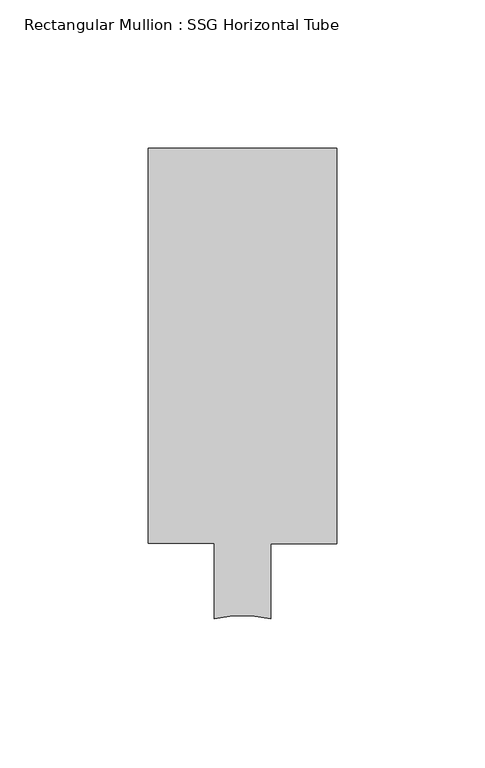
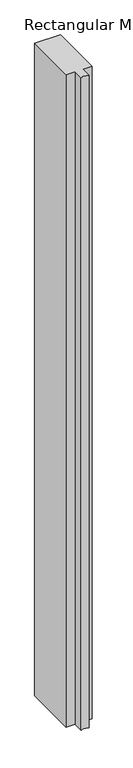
"""IFC4 building model written with IfcOpenShell, lengths in millimetres: member geometry, Rectangular Mullion : SSG Horizontal Tube."""

import ifcopenshell
import ifcopenshell.guid

model = None  # the IFC model being written
_history = None  # IfcOwnerHistory: only IFC2X3 demands one
_inside = {}  # id of a spatial element -> (the spatial element, [elements in it])
_under = {}  # id of a project, library or spatial element -> (it, [spatial elements below it])
_declared = {}  # id of a project -> (the project, [libraries it declares])
_typed = {}  # id of a type object -> (the type object, [elements of that type])
_made_of = {}  # id of a material, layer set ... -> (it, [elements and type objects made of it])


def new_model(schema):
    """Start an empty IFC model of exactly this schema.

    Asked for "IFC4X3", IfcOpenShell would pick the latest addendum, in which some entities
    have other attributes; the version numbers below select the first issue.
    IFC2X3 requires an IfcOwnerHistory on every rooted entity: one is made here for all.
    """
    global model, _history
    if schema == "IFC4X3":
        model = ifcopenshell.file(schema_version=(4, 3, 0, 0))
    else:
        model = ifcopenshell.file(schema=schema)
    _inside.clear()
    _under.clear()
    _declared.clear()
    _typed.clear()
    _made_of.clear()
    _history = None
    if model.schema == "IFC2X3":
        org = make("IfcOrganization", Name="unknown")
        user = make(
            "IfcPersonAndOrganization",
            ThePerson=make("IfcPerson", FamilyName="unknown"),
            TheOrganization=org,
        )
        app = make(
            "IfcApplication",
            ApplicationDeveloper=org,
            Version="unknown",
            ApplicationFullName="unknown",
            ApplicationIdentifier="unknown",
        )
        _history = make(
            "IfcOwnerHistory",
            OwningUser=user,
            OwningApplication=app,
            ChangeAction="ADDED",
            CreationDate=0,
        )
    return model


def make(cls, **values):
    """One entity of the class cls with the attributes given. An attribute that is None is left unset."""
    return model.create_entity(
        cls, **{name: value for name, value in values.items() if value is not None}
    )


def rooted(cls, **values):
    """An entity with a GlobalId (a new one), such as an element, a storey or a relation."""
    return make(cls, GlobalId=ifcopenshell.guid.new(), OwnerHistory=_history, **values)


def si_unit(unit_type, name, prefix=None):
    """IfcSIUnit, for example si_unit("LENGTHUNIT", "METRE", prefix="MILLI")."""
    return make("IfcSIUnit", UnitType=unit_type, Prefix=prefix, Name=name)


def assignment(units):
    """IfcUnitAssignment: the units of a project."""
    return None if units is None else make("IfcUnitAssignment", Units=units)


def point(xyz):
    """IfcCartesianPoint."""
    return None if xyz is None else make("IfcCartesianPoint", Coordinates=xyz)


def direction(xyz):
    """IfcDirection."""
    return None if xyz is None else make("IfcDirection", DirectionRatios=xyz)


def frame(location, z_axis=None, x_axis=None):
    """IfcAxis2Placement3D, a coordinate frame: its origin and axes. An axis left out is left unset."""
    return make(
        "IfcAxis2Placement3D",
        Location=point(location),
        Axis=direction(z_axis),
        RefDirection=direction(x_axis),
    )


def frame_2d(location, x_axis=None):
    """IfcAxis2Placement2D, a coordinate frame in the plane: its origin and x axis."""
    return make(
        "IfcAxis2Placement2D", Location=point(location), RefDirection=direction(x_axis)
    )


def origin():
    """The frame at (0, 0, 0) with its axes left unset."""
    return frame((0.0, 0.0, 0.0))


def place(relative_to, where):
    """IfcLocalPlacement: puts the frame where relative to a parent placement (None: the world)."""
    return make(
        "IfcLocalPlacement", PlacementRelTo=relative_to, RelativePlacement=where
    )


def context(
    kind, dimensions, precision=None, world=None, true_north=None, identifier=None
):
    """IfcGeometricRepresentationContext, for example the 3D "Model" context."""
    return make(
        "IfcGeometricRepresentationContext",
        ContextIdentifier=identifier,
        ContextType=kind,
        CoordinateSpaceDimension=dimensions,
        Precision=precision,
        WorldCoordinateSystem=world,
        TrueNorth=true_north,
    )


def project(units=None, contexts=None):
    """IfcProject with its units and contexts."""
    return rooted(
        "IfcProject",
        Name="project",
        RepresentationContexts=contexts,
        UnitsInContext=assignment(units),
    )


def spatial(cls, under=None, at=None, **own):
    """A site, building, storey or space (cls), placed at a placement, below another one or the project."""
    s = rooted(cls, ObjectPlacement=at, **own)
    if under is not None:
        _under.setdefault(under.id(), (under, []))[1].append(s)
    return s


def polyline(points):
    """IfcPolyline through the points."""
    return make("IfcPolyline", Points=[point(p) for p in points])


def circle_curve(where, radius):
    """IfcCircle in the frame where."""
    return make("IfcCircle", Position=where, Radius=radius)


def trimmed(basis, trim1, trim2, sense, master):
    """IfcTrimmedCurve: the piece of a basis curve between two trims."""
    return make(
        "IfcTrimmedCurve",
        BasisCurve=basis,
        Trim1=trim1,
        Trim2=trim2,
        SenseAgreement=sense,
        MasterRepresentation=master,
    )


def segment(curve, same_sense, transition):
    """IfcCompositeCurveSegment."""
    return make(
        "IfcCompositeCurveSegment",
        Transition=transition,
        SameSense=same_sense,
        ParentCurve=curve,
    )


def composite_curve(segments, self_intersect=None):
    """IfcCompositeCurve: segments joined end to end."""
    return make("IfcCompositeCurve", Segments=segments, SelfIntersect=self_intersect)


def outline(outer, holes=None, kind="AREA"):
    """IfcArbitraryClosedProfileDef: a profile drawn as a closed curve; with holes, ...WithVoids."""
    if holes is None:
        return make("IfcArbitraryClosedProfileDef", ProfileType=kind, OuterCurve=outer)
    return make(
        "IfcArbitraryProfileDefWithVoids",
        ProfileType=kind,
        OuterCurve=outer,
        InnerCurves=holes,
    )


def extrude(swept, where, along, depth):
    """IfcExtrudedAreaSolid: the profile swept, set in the frame where, extruded along a direction by depth."""
    return make(
        "IfcExtrudedAreaSolid",
        SweptArea=swept,
        Position=where,
        ExtrudedDirection=direction(along),
        Depth=depth,
    )


def shape(context_of_items, identifier, shape_type, items):
    """IfcShapeRepresentation: the items that make up one representation, for example the "Body"."""
    return make(
        "IfcShapeRepresentation",
        ContextOfItems=context_of_items,
        RepresentationIdentifier=identifier,
        RepresentationType=shape_type,
        Items=items,
    )


def source(mapping_origin, context_of_items, identifier, shape_type, items):
    """IfcRepresentationMap: a shape defined once, which mapped items show again and again."""
    return make(
        "IfcRepresentationMap",
        MappingOrigin=mapping_origin,
        MappedRepresentation=shape(context_of_items, identifier, shape_type, items),
    )


def transform(
    local_origin,
    x_axis=None,
    y_axis=None,
    z_axis=None,
    scale=None,
    scale2=None,
    scale3=None,
    uniform=True,
):
    """IfcCartesianTransformationOperator3D, or its non-uniform kind. x_axis, y_axis, z_axis: its Axis1, 2, 3."""
    if uniform:
        return make(
            "IfcCartesianTransformationOperator3D",
            Axis1=direction(x_axis),
            Axis2=direction(y_axis),
            LocalOrigin=point(local_origin),
            Scale=scale,
            Axis3=direction(z_axis),
        )
    return make(
        "IfcCartesianTransformationOperator3DnonUniform",
        Axis1=direction(x_axis),
        Axis2=direction(y_axis),
        LocalOrigin=point(local_origin),
        Scale=scale,
        Axis3=direction(z_axis),
        Scale2=scale2,
        Scale3=scale3,
    )


def mapped(mapping_source, mapping_target):
    """IfcMappedItem: shows the shape of a source again, moved by a transform."""
    return make(
        "IfcMappedItem", MappingSource=mapping_source, MappingTarget=mapping_target
    )


def made_of(thing, what):
    """Note that an element or type object is made of a material, layer set ...; save() writes the relation."""
    if what is not None:
        _made_of.setdefault(what.id(), (what, []))[1].append(thing)
    return thing


def element(
    cls,
    number,
    at=None,
    inside=None,
    cuts=None,
    type_object=None,
    material=None,
    context=None,
    identifier="Body",
    shape_type=None,
    held_by="IfcProductDefinitionShape",
    body=None,
    shapes=None,
    **own,
):
    """One element of the class cls, such as IfcWall. Its Tag is "e" and its number.

    at: its placement. inside: the storey or other place that contains it. cuts: it is an
    opening in that element (IfcRelVoidsElement). A single representation is given by context,
    identifier, shape_type and body (its items); several are given by shapes. held_by: the class
    of the entity that holds the representations. save() writes the other relations.
    """
    e = rooted(cls, Tag="e%d" % number, ObjectPlacement=at, **own)
    if body is not None:
        shapes = [shape(context, identifier, shape_type, body)]
    if shapes is not None:
        e.Representation = make(held_by, Representations=shapes)
    if inside is not None:
        _inside.setdefault(inside.id(), (inside, []))[1].append(e)
    if cuts is not None:
        rooted(
            "IfcRelVoidsElement", RelatingBuildingElement=cuts, RelatedOpeningElement=e
        )
    if type_object is not None:
        _typed.setdefault(type_object.id(), (type_object, []))[1].append(e)
    return made_of(e, material)


def aggregate(whole, parts):
    """IfcRelAggregates: a whole, such as a stair, and the parts it consists of."""
    return rooted("IfcRelAggregates", RelatingObject=whole, RelatedObjects=parts)


def save(model, path):
    """Write the relations noted so far, then the file.

    IfcRelAggregates (storeys below a building ...), IfcRelContainedInSpatialStructure (elements
    in a storey), IfcRelDefinesByType, IfcRelAssociatesMaterial and IfcRelDeclares: one each for
    every whole, place, type object, material and project.
    """
    for whole, parts in _under.values():
        aggregate(whole, parts)
    for where, things in _inside.values():
        rooted(
            "IfcRelContainedInSpatialStructure",
            RelatedElements=things,
            RelatingStructure=where,
        )
    for kind, things in _typed.values():
        rooted("IfcRelDefinesByType", RelatedObjects=things, RelatingType=kind)
    for what, things in _made_of.values():
        rooted("IfcRelAssociatesMaterial", RelatedObjects=things, RelatingMaterial=what)
    for by, libraries in _declared.values():
        rooted("IfcRelDeclares", RelatingContext=by, RelatedDefinitions=libraries)
    model.write(path)


def rectangular_mullion_ssg_horizontal_tube_14686918(model_context):
    return source(origin(), model_context, "Body", "SweptSolid", [
        extrude(outline(composite_curve([segment(polyline([(31.7705663, 114.3), (31.7705663, -19.05), (9.5552592, -19.05), (9.5552592, -44.4572901)]), True, "CONTINUOUS"), segment(trimmed(circle_curve(frame_2d((0.020565, -81.9595202)), 38.6953183), [point((9.5552592, -44.4572901))], [point((-9.4947442, -44.4523669))], True, "CARTESIAN"), True, "CONTINUOUS"), segment(polyline([(-9.4947442, -44.4523669), (-9.4947442, -18.9488461), (-31.75, -18.9488461), (-31.75, 114.3), (31.7705663, 114.3)]), True, "CONTINUOUS")], self_intersect=False)), frame((0.0, 0.0, -1692.2396178), z_axis=(0.0, 0.0, 1.0), x_axis=(1.0, 0.0, 0.0)), (0.0, 0.0, 1.0), 1692.2396178),
    ])


if __name__ == "__main__":
    model = new_model("IFC4")
    model_context = context("Model", 3, world=origin())
    ifc_project = project(units=[si_unit("LENGTHUNIT", "METRE", prefix="MILLI")], contexts=[model_context])
    site = spatial("IfcSite", under=ifc_project)
    building = spatial("IfcBuilding", under=site)
    placement = place(None, origin())
    rectangular_mullion_ssg_horizontal_tube_shape = rectangular_mullion_ssg_horizontal_tube_14686918(model_context)
    element("IfcMember", 1, ObjectType="Rectangular Mullion : SSG Horizontal Tube", at=placement, inside=building, context=model_context, shape_type="MappedRepresentation", body=[
        mapped(rectangular_mullion_ssg_horizontal_tube_shape, transform((0.0, 0.0, 0.0), x_axis=(1.0, 0.0, 0.0), y_axis=(0.0, 1.0, 0.0), z_axis=(0.0, 0.0, 1.0))),
    ])
    save(model, "model.ifc")
